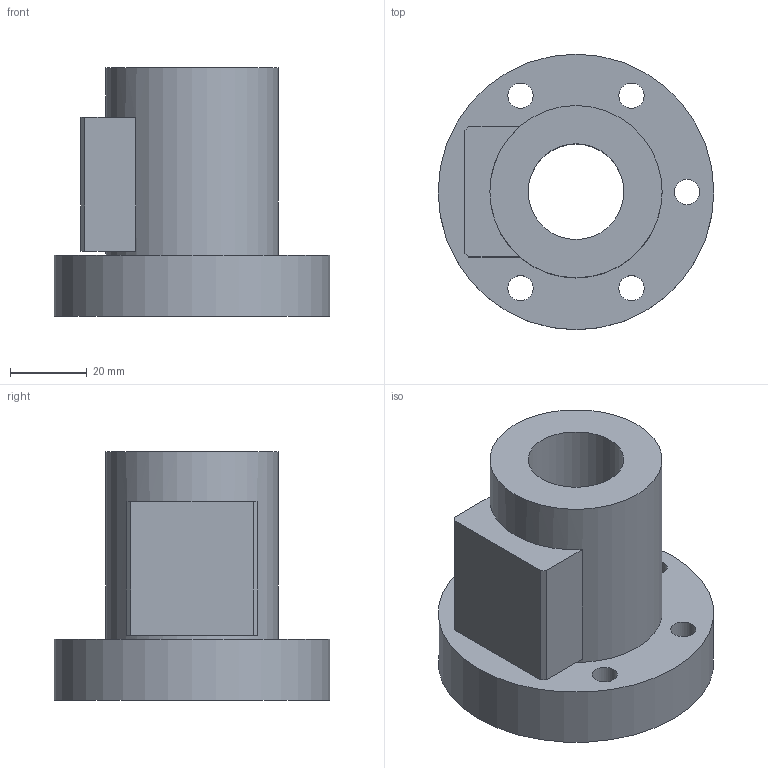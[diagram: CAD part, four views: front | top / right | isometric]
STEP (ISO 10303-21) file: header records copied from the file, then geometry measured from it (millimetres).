
FILE_DESCRIPTION(/* description */ (''),/* implementation_level */ '2;1');
FILE_NAME(/* name */ '25-10B1',/* time_stamp */ '2006-06-16T09:31:15+08:00',/* author */ (''),/* organization */ (''),/* preprocessor_version */ 'ST-DEVELOPER v9',/* originating_system */ 'UGS - NX 4.0',/* authorisation */ '');
FILE_SCHEMA (('CONFIG_CONTROL_DESIGN'));
Length unit declared in the file: millimetre
Products named in the file (1): 25-10B1
Bounding box: 72 x 72 x 65 mm (x, y, z)
Volume: 116983.7 mm3; surface area: 25978.5 mm2
Topology: 1 solids, 1 shells, 28 faces, 61 edges, 42 vertices
Faces by surface type: plane 15, cylinder 13
Full cylindrical faces by diameter (mm): 6.6 x5, 11 x5, 25 x1, 45 x1, 72 x1
Entity records: 794 total; most frequent: DIRECTION 130, CARTESIAN_POINT 111, ORIENTED_EDGE 88, EDGE_LOOP 60, AXIS2_PLACEMENT_3D 57, FACE_BOUND 45, EDGE_CURVE 44, VERTEX_POINT 38
